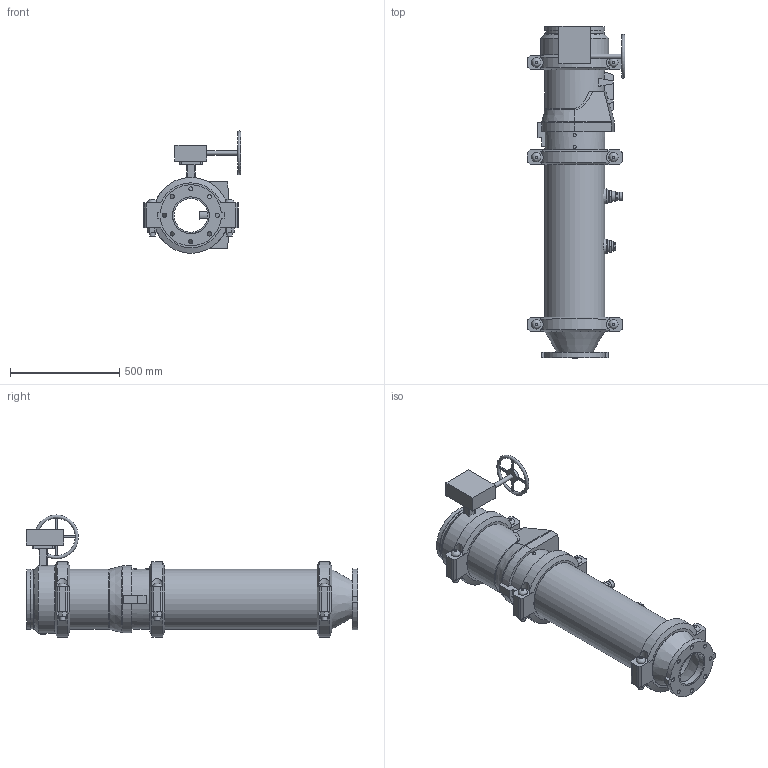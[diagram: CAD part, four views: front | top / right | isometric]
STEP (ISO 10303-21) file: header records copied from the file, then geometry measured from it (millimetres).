
FILE_DESCRIPTION(/* description */ ('VIC DVI PUMP DROP VERT S/380 (OGSxFLG) (S/924-0.75)','CAx-IF Rec.Pracs.---Representation and Presentation of Product Manufacturing Information (PMI)---4.0---2014-10-13'),/* implementation_level */ '2;1');
FILE_NAME(/* name */ 'C:\Users\Public\Documents\Victaulic.Temp\A765\Victaulic_IPS_Vertical DVI_CL 150_Series 380 (OGSxFLG)_924 (0.75)_10.0x06.0 (250x150).stp',/* time_stamp */ '2022-07-25T11:14:03+02:00',/* author */ ('Vjadhav'),/* organization */ ('Victaulic'),/* preprocessor_version */ 'ST-DEVELOPER v18',/* originating_system */ 'Autodesk Inventor 2020',/* authorisation */ '');
FILE_SCHEMA (('AP242_MANAGED_MODEL_BASED_3D_ENGINEERING_MIM_LF { 1 0 10303 442 1 1 4 }'));
Length unit declared in the file: inch
Products named in the file (9): 380_924 (0.75)-10.0x06.0; 741-06.0; 050-10.0x06.0; Pipe-10.0; 779-10.0; 923-10.0x0.75; 924-10.0x0.75; 761-10.0; 077-10.0
Assembly tree (10 placements, depth 2):
  380_924 (0.75)-10.0x06.0
    741-06.0
    050-10.0x06.0
    Pipe-10.0
    779-10.0
    923-10.0x0.75
    924-10.0x0.75
    761-10.0
    077-10.0  x3
Bounding box: 445.64 x 1517.4 x 558.01 mm (x, y, z)
Volume: 28808018 mm3; surface area: 3906084.8 mm2
Topology: 10 solids, 17 shells, 492 faces, 1236 edges, 842 vertices
Faces by surface type: plane 297, cylinder 160, cone 20, bspline 8, torus 7
Full cylindrical faces by diameter (mm): 10.922 x4, 12.7 x1, 13.716 x4, 19.05 x8, 20.066 x1, 21.336 x1, 22.86 x1, 25.4 x12, 26.67 x2, 27.432 x6, 38.608 x1, 45.974 x4, 55.626 x2, 63.079 x1, 70.104 x1, 76.2 x1, 154.051 x1, 163.957 x1, 168.275 x3, 254.508 x4, 264.16 x3, 268.275 x7, 273.05 x19, 311.15 x1
Entity records: 12741 total; most frequent: CARTESIAN_POINT 2574, DIRECTION 2066, ORIENTED_EDGE 1892, EDGE_CURVE 946, AXIS2_PLACEMENT_3D 788, VERTEX_POINT 646, LINE 490, VECTOR 490
